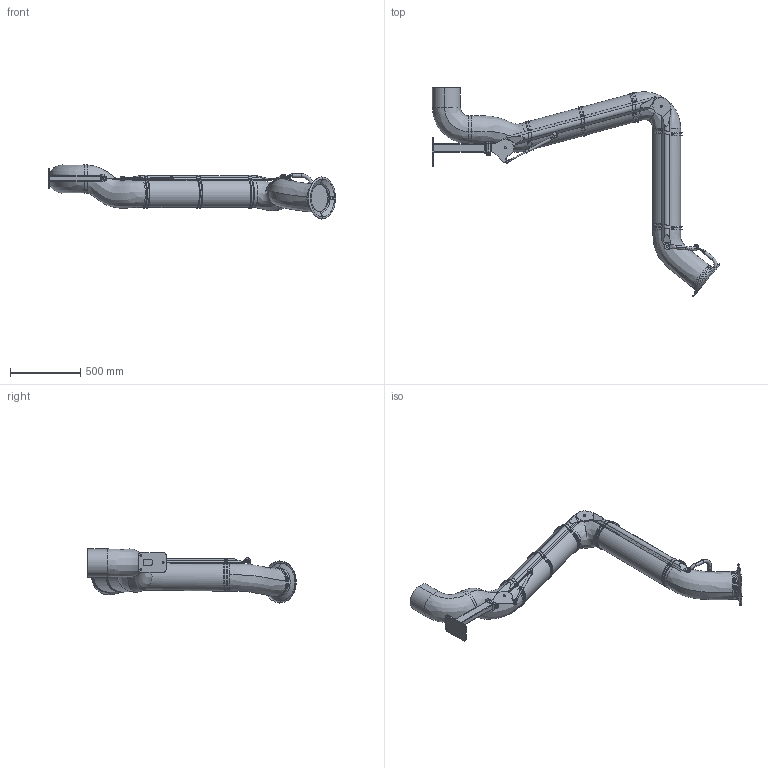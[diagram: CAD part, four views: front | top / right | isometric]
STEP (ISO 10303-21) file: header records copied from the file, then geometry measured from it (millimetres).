
FILE_DESCRIPTION((''),'2;1');
FILE_NAME('PSS_3000-200','2023-02-07T15:04:06',('Tomas Bellgran'),(''),'CREO PARAMETRIC BY PTC INC, 2018260','CREO PARAMETRIC BY PTC INC, 2018260','');
FILE_SCHEMA(('AUTOMOTIVE_DESIGN { 1 0 10303 214 1 1 1 1 }'));
Length unit declared in the file: millimetre
Products named in the file (31): 131085_LIGHT; 131041; 131045_LIGHT; 131045; 144355; 131150; 139383; 131151; 131173; 144356; 141589; 134343_AF0; G_P136_WELD-REF; 141590; 122717_LIGHT; 130317; ROD_STAB_8-160-REF; 131095; 130322_AF8; 131145; 131131_AF0; 131134_AF0; 131139; 107526; 132679; SKRUVSATS_LITEN; SKRUVSATS_BIG; SKRUVSATS_LITEN-2; SKRUVSATS_BIGGEST; 120127_COMPL_LIGHT; PSS_3000-200
Assembly tree (48 placements, depth 3):
  PSS_3000-200
    131041
      131085_LIGHT
    131045
      131045_LIGHT
    144355  x4
    131150
    131173
      139383
      131151
    144356  x2
    141590
      141589
      134343_AF0
      G_P136_WELD-REF
    122717_LIGHT
    130322_AF8
      130317
      ROD_STAB_8-160-REF
      131095  x2
    131145  x2
    131139  x5
      131131_AF0
      131134_AF0
    107526  x5
    132679
    SKRUVSATS_LITEN  x2
    SKRUVSATS_BIG  x2
    SKRUVSATS_LITEN-2  x2
    SKRUVSATS_BIGGEST  x2
    120127_COMPL_LIGHT
Bounding box: 2046.38 x 1485.18 x 385.38 mm (x, y, z)
Volume: 102690037.1 mm3; surface area: 3149649.5 mm2
Topology: 46 solids, 47 shells, 1096 faces, 2645 edges, 1813 vertices
Faces by surface type: plane 353, cylinder 338, bspline 308, torus 48, cone 42, extrusion 5, sphere 2
Entity records: 41836 total; most frequent: CARTESIAN_POINT 18070, DIRECTION 3102, ORIENTED_EDGE 2732, PRESENTATION_STYLE_ASSIGNMENT 1975, STYLED_ITEM 1948, CURVE_STYLE 1500, EDGE_CURVE 1366, AXIS2_PLACEMENT_3D 1209
